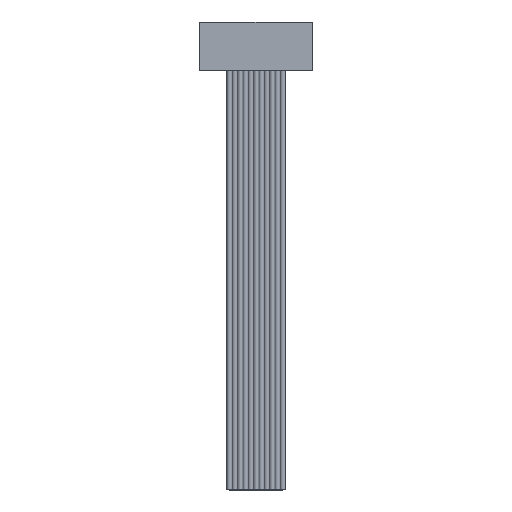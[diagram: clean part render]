
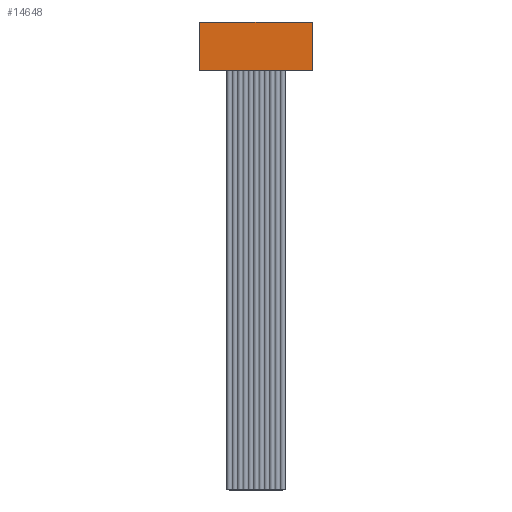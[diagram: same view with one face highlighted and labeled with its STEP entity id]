
A CAD part, front view. The second image highlights one B-rep face of the part: STEP entity #14648.
In plain terms, the highlighted planar face has unit normal (0, -1, 0).
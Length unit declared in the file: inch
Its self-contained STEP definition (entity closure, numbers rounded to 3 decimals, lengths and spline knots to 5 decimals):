
#352 = EDGE_CURVE ( 'NONE', #16890, #22464, #2547, .T. ) ;
#942 = CARTESIAN_POINT ( 'NONE',  ( 0.2625, -0.0625, 0. ) ) ;
#2024 = CARTESIAN_POINT ( 'NONE',  ( 0.2625, -0.0625, -0.225 ) ) ;
#2547 = LINE ( 'NONE', #18021, #24666 ) ;
#3812 = EDGE_CURVE ( 'NONE', #16890, #5556, #14420, .T. ) ;
#4259 = ORIENTED_EDGE ( 'NONE', *, *, #352, .T. ) ;
#4428 = VECTOR ( 'NONE', #12493, 39.37008 ) ;
#4604 = LINE ( 'NONE', #14458, #4428 ) ;
#5556 = VERTEX_POINT ( 'NONE', #15144 ) ;
#6282 = AXIS2_PLACEMENT_3D ( 'NONE', #9358, #24776, #13291 ) ;
#6688 = ORIENTED_EDGE ( 'NONE', *, *, #3812, .F. ) ;
#6731 = FACE_OUTER_BOUND ( 'NONE', #13235, .T. ) ;
#8573 = DIRECTION ( 'NONE',  ( 1., 0., 0. ) ) ;
#9358 = CARTESIAN_POINT ( 'NONE',  ( 0.2625, -0.0625, -0.225 ) ) ;
#10336 = ORIENTED_EDGE ( 'NONE', *, *, #23747, .T. ) ;
#12493 = DIRECTION ( 'NONE',  ( 0., 0., 1. ) ) ;
#13235 = EDGE_LOOP ( 'NONE', ( #13598, #6688, #4259, #10336 ) ) ;
#13291 = DIRECTION ( 'NONE',  ( 0., 0., 1. ) ) ;
#13598 = ORIENTED_EDGE ( 'NONE', *, *, #18110, .F. ) ;
#14035 = VERTEX_POINT ( 'NONE', #942 ) ;
#14086 = VECTOR ( 'NONE', #16445, 39.37008 ) ;
#14176 = VECTOR ( 'NONE', #21208, 39.37008 ) ;
#14420 = LINE ( 'NONE', #16887, #14086 ) ;
#14430 = LINE ( 'NONE', #23070, #14176 ) ;
#14458 = CARTESIAN_POINT ( 'NONE',  ( 0.2625, -0.0625, -0.225 ) ) ;
#14648 = ADVANCED_FACE ( 'NONE', ( #6731 ), #17044, .T. ) ;
#15144 = CARTESIAN_POINT ( 'NONE',  ( -0.2625, -0.0625, 0. ) ) ;
#15643 = CARTESIAN_POINT ( 'NONE',  ( -0.2625, -0.0625, -0.225 ) ) ;
#16445 = DIRECTION ( 'NONE',  ( 0., 0., 1. ) ) ;
#16887 = CARTESIAN_POINT ( 'NONE',  ( -0.2625, -0.0625, -0.225 ) ) ;
#16890 = VERTEX_POINT ( 'NONE', #15643 ) ;
#17044 = PLANE ( 'NONE',  #6282 ) ;
#18021 = CARTESIAN_POINT ( 'NONE',  ( 0.2625, -0.0625, -0.225 ) ) ;
#18110 = EDGE_CURVE ( 'NONE', #5556, #14035, #14430, .T. ) ;
#21208 = DIRECTION ( 'NONE',  ( 1., 0., 0. ) ) ;
#22464 = VERTEX_POINT ( 'NONE', #2024 ) ;
#23070 = CARTESIAN_POINT ( 'NONE',  ( 0.2625, -0.0625, 0. ) ) ;
#23747 = EDGE_CURVE ( 'NONE', #22464, #14035, #4604, .T. ) ;
#24666 = VECTOR ( 'NONE', #8573, 39.37008 ) ;
#24776 = DIRECTION ( 'NONE',  ( 0., -1., 0. ) ) ;
